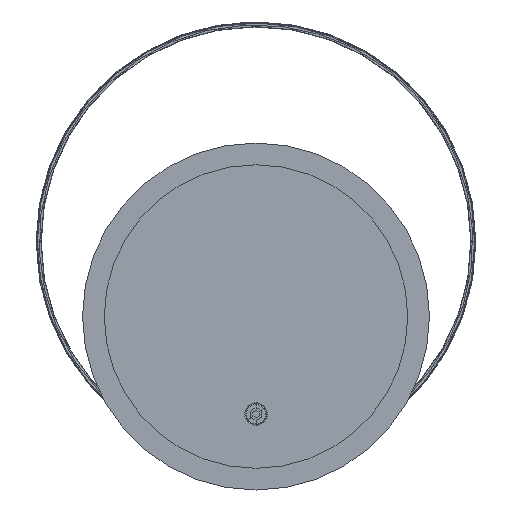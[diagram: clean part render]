
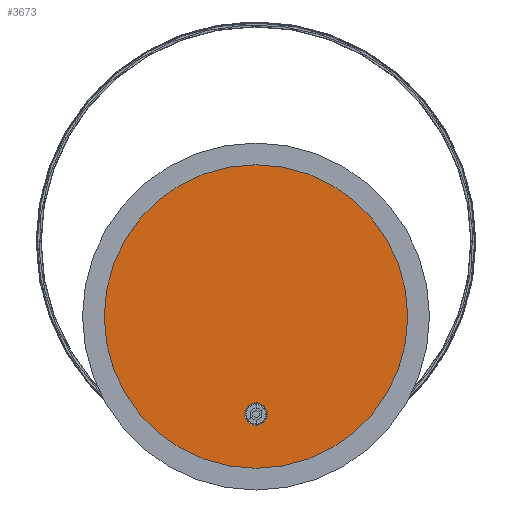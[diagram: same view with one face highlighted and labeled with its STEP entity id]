
A CAD part, front view. The second image highlights one B-rep face of the part: STEP entity #3673.
In plain terms, the highlighted planar face has unit normal (0, -1, 0).
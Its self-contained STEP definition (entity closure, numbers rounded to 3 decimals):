
#782 = CARTESIAN_POINT ( 'NONE',  ( 0., 0., 140. ) ) ;
#855 = CIRCLE ( 'NONE', #9106, 140. ) ;
#1885 = AXIS2_PLACEMENT_3D ( 'NONE', #12910, #14468, #19376 ) ;
#2221 = CIRCLE ( 'NONE', #17984, 140. ) ;
#2918 = ORIENTED_EDGE ( 'NONE', *, *, #19837, .T. ) ;
#3673 = ADVANCED_FACE ( 'NONE', ( #4479, #17344 ), #18918, .F. ) ;
#3701 = EDGE_LOOP ( 'NONE', ( #10253, #2918 ) ) ;
#4479 = FACE_BOUND ( 'NONE', #3701, .T. ) ;
#4954 = EDGE_CURVE ( 'NONE', #15633, #11852, #10112, .T. ) ;
#5073 = EDGE_CURVE ( 'NONE', #8459, #9893, #2221, .T. ) ;
#5330 = DIRECTION ( 'NONE',  ( 0., 1., 0. ) ) ;
#6338 = CARTESIAN_POINT ( 'NONE',  ( 0., 0., 0. ) ) ;
#6912 = DIRECTION ( 'NONE',  ( 0., 0., 1. ) ) ;
#7809 = CARTESIAN_POINT ( 'NONE',  ( 0., 0., -140. ) ) ;
#8048 = DIRECTION ( 'NONE',  ( 0., 1., 0. ) ) ;
#8459 = VERTEX_POINT ( 'NONE', #7809 ) ;
#8967 = AXIS2_PLACEMENT_3D ( 'NONE', #6338, #17404, #20362 ) ;
#9106 = AXIS2_PLACEMENT_3D ( 'NONE', #16017, #8048, #17622 ) ;
#9893 = VERTEX_POINT ( 'NONE', #782 ) ;
#10112 = CIRCLE ( 'NONE', #12304, 10.5 ) ;
#10253 = ORIENTED_EDGE ( 'NONE', *, *, #4954, .T. ) ;
#11774 = CARTESIAN_POINT ( 'NONE',  ( 0., 0., 0. ) ) ;
#11852 = VERTEX_POINT ( 'NONE', #13857 ) ;
#12304 = AXIS2_PLACEMENT_3D ( 'NONE', #13071, #5330, #6912 ) ;
#12910 = CARTESIAN_POINT ( 'NONE',  ( 0., 0., -90. ) ) ;
#13071 = CARTESIAN_POINT ( 'NONE',  ( 0., 0., -90. ) ) ;
#13857 = CARTESIAN_POINT ( 'NONE',  ( 0., 0., -100.5 ) ) ;
#14181 = EDGE_LOOP ( 'NONE', ( #15192, #15551 ) ) ;
#14468 = DIRECTION ( 'NONE',  ( 0., 1., 0. ) ) ;
#15108 = CARTESIAN_POINT ( 'NONE',  ( 0., 0., -79.5 ) ) ;
#15192 = ORIENTED_EDGE ( 'NONE', *, *, #5073, .F. ) ;
#15551 = ORIENTED_EDGE ( 'NONE', *, *, #17248, .F. ) ;
#15633 = VERTEX_POINT ( 'NONE', #15108 ) ;
#16017 = CARTESIAN_POINT ( 'NONE',  ( 0., 0., 0. ) ) ;
#16664 = DIRECTION ( 'NONE',  ( 0., 1., 0. ) ) ;
#17248 = EDGE_CURVE ( 'NONE', #9893, #8459, #855, .T. ) ;
#17344 = FACE_OUTER_BOUND ( 'NONE', #14181, .T. ) ;
#17404 = DIRECTION ( 'NONE',  ( 0., 1., 0. ) ) ;
#17622 = DIRECTION ( 'NONE',  ( 0., 0., 1. ) ) ;
#17984 = AXIS2_PLACEMENT_3D ( 'NONE', #11774, #16664, #18050 ) ;
#18050 = DIRECTION ( 'NONE',  ( 0., 0., 1. ) ) ;
#18918 = PLANE ( 'NONE',  #8967 ) ;
#19376 = DIRECTION ( 'NONE',  ( 0., 0., 1. ) ) ;
#19529 = CIRCLE ( 'NONE', #1885, 10.5 ) ;
#19837 = EDGE_CURVE ( 'NONE', #11852, #15633, #19529, .T. ) ;
#20362 = DIRECTION ( 'NONE',  ( 0., 0., 1. ) ) ;
